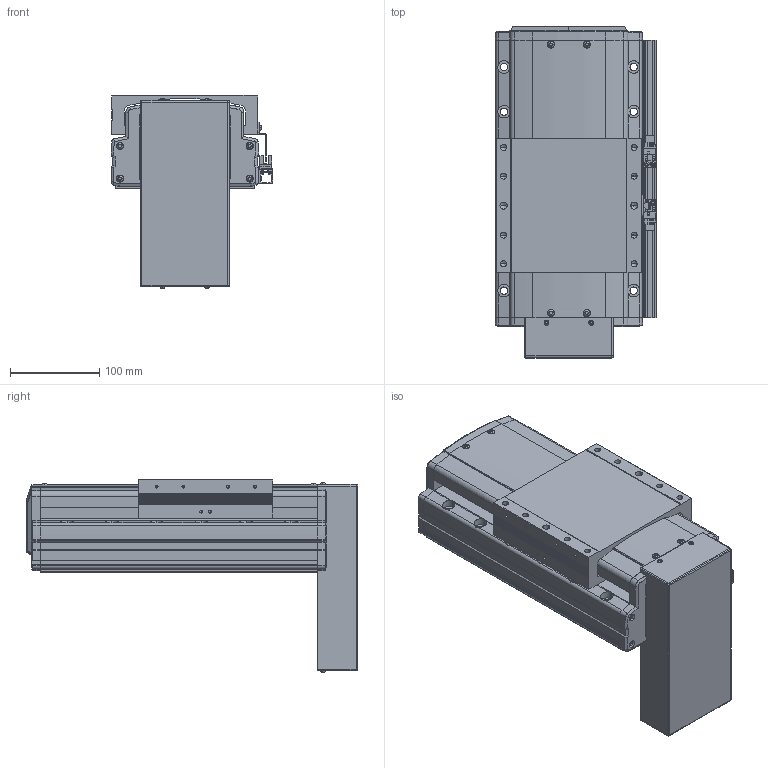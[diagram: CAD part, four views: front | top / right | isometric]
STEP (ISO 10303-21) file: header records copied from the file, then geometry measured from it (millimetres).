
FILE_DESCRIPTION(('STEP AP214'),'1');
FILE_NAME('Z:/Web/3D/PSA165/STP/PSA165-050 (3D)/PSA165ㅁㅁ-050PB+2SR.stp','2014-06-23T06:31:47',(' '),(' '),'Spatial InterOp 3D',' ',' ');
FILE_SCHEMA(('automotive_design'));
Length unit declared in the file: millimetre
Products named in the file (43): 스크루 : Round - M4.0 x 12.0; RRCV-PA160; BASE; 스크루 : Round - M4.0 x 10.0; RN15; Screw 20; SLIDE; FRCV; MTPL CV- PB; 스크루 : Round - M3.0 x 6.0; 1; 2; M3.0 x 6.0; SRL-16x17-360L; SGD-SAN150; EE-SX674; SBK-SX674-352; BHCS M4.0 x 10.0
Bounding box: 181 x 370.8 x 215.96 mm (x, y, z)
Volume: 5723857.5 mm3; surface area: 538479.1 mm2
Topology: 43 solids, 43 shells, 2395 faces, 6368 edges, 4097 vertices
Faces by surface type: plane 1414, cylinder 672, cone 200, sphere 68, bspline 25, torus 16
Entity records: 96745 total; most frequent: CARTESIAN_POINT 16479, DIRECTION 12777, ORIENTED_EDGE 12512, EDGE_CURVE 6256, LINE 4267, VECTOR 4267, AXIS2_PLACEMENT_3D 4255, VERTEX_POINT 4097
